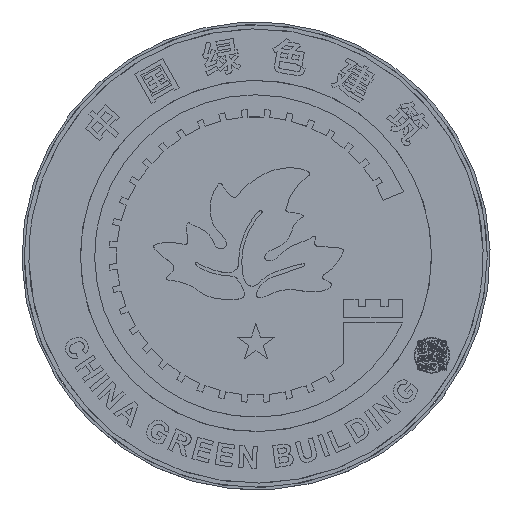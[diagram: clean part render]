
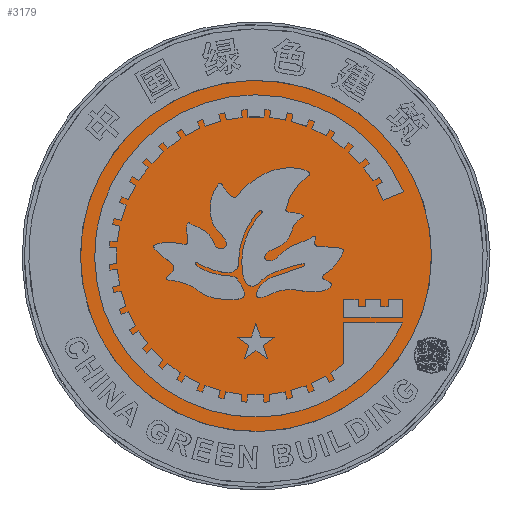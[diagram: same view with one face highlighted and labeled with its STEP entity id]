
A CAD part, top view. The second image highlights one B-rep face of the part: STEP entity #3179.
In plain terms, the highlighted planar face has unit normal (0, 0, 1).
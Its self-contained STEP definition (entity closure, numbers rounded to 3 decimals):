
#3179=ADVANCED_FACE('',(#5433),#31929,.T.);
#5433=FACE_OUTER_BOUND('',#7729,.T.);
#7729=EDGE_LOOP('',(#17757,#17758));
#17757=ORIENTED_EDGE('',*,*,#22775,.T.);
#17758=ORIENTED_EDGE('',*,*,#22778,.T.);
#22775=EDGE_CURVE('',#31136,#31138,#27791,.T.);
#22778=EDGE_CURVE('',#31138,#31136,#27794,.T.);
#27791=B_SPLINE_CURVE_WITH_KNOTS('',3,(#80111,#80112,#80113,#80114,#80115,
#80116,#80117,#80118,#80119,#80120,#80121,#80122,#80123),.UNSPECIFIED.,
 .F.,.F.,(4,3,3,3,4),(-9.,-8.,-7.,-6.,-5.),.UNSPECIFIED.);
#27794=B_SPLINE_CURVE_WITH_KNOTS('',3,(#80139,#80140,#80141,#80142,#80143,
#80144,#80145,#80146,#80147,#80148,#80149,#80150,#80151),.UNSPECIFIED.,
 .F.,.F.,(4,3,3,3,4),(-5.,-4.,-3.,-2.,-1.),.UNSPECIFIED.);
#31136=VERTEX_POINT('',#80093);
#31138=VERTEX_POINT('',#80095);
#31929=PLANE('',#34203);
#34203=AXIS2_PLACEMENT_3D('',#80065,#34997,$);
#34997=DIRECTION('',(0.,0.,1.));
#80065=CARTESIAN_POINT('',(8075.888,1974.069,3.333));
#80093=CARTESIAN_POINT('',(7919.098,1393.066,3.333));
#80095=CARTESIAN_POINT('',(7482.434,1804.835,3.333));
#80111=CARTESIAN_POINT('',(7919.098,1393.066,3.333));
#80112=CARTESIAN_POINT('',(7973.78,1451.058,3.333));
#80113=CARTESIAN_POINT('',(8003.07,1528.077,3.333));
#80114=CARTESIAN_POINT('',(8000.733,1607.745,3.333));
#80115=CARTESIAN_POINT('',(7998.397,1687.425,3.333));
#80116=CARTESIAN_POINT('',(7964.64,1762.598,3.333));
#80117=CARTESIAN_POINT('',(7906.648,1817.281,3.333));
#80118=CARTESIAN_POINT('',(7848.662,1871.968,3.333));
#80119=CARTESIAN_POINT('',(7771.637,1901.252,3.333));
#80120=CARTESIAN_POINT('',(7691.969,1898.916,3.333));
#80121=CARTESIAN_POINT('',(7612.289,1896.579,3.333));
#80122=CARTESIAN_POINT('',(7537.121,1862.827,3.333));
#80123=CARTESIAN_POINT('',(7482.434,1804.835,3.333));
#80139=CARTESIAN_POINT('',(7482.434,1804.835,3.333));
#80140=CARTESIAN_POINT('',(7427.751,1746.843,3.333));
#80141=CARTESIAN_POINT('',(7398.462,1669.827,3.333));
#80142=CARTESIAN_POINT('',(7400.799,1590.15,3.333));
#80143=CARTESIAN_POINT('',(7403.135,1510.477,3.333));
#80144=CARTESIAN_POINT('',(7436.887,1435.303,3.333));
#80145=CARTESIAN_POINT('',(7494.879,1380.616,3.333));
#80146=CARTESIAN_POINT('',(7552.871,1325.934,3.333));
#80147=CARTESIAN_POINT('',(7629.887,1296.65,3.333));
#80148=CARTESIAN_POINT('',(7709.564,1298.986,3.333));
#80149=CARTESIAN_POINT('',(7789.237,1301.323,3.333));
#80150=CARTESIAN_POINT('',(7864.411,1335.074,3.333));
#80151=CARTESIAN_POINT('',(7919.098,1393.066,3.333));
